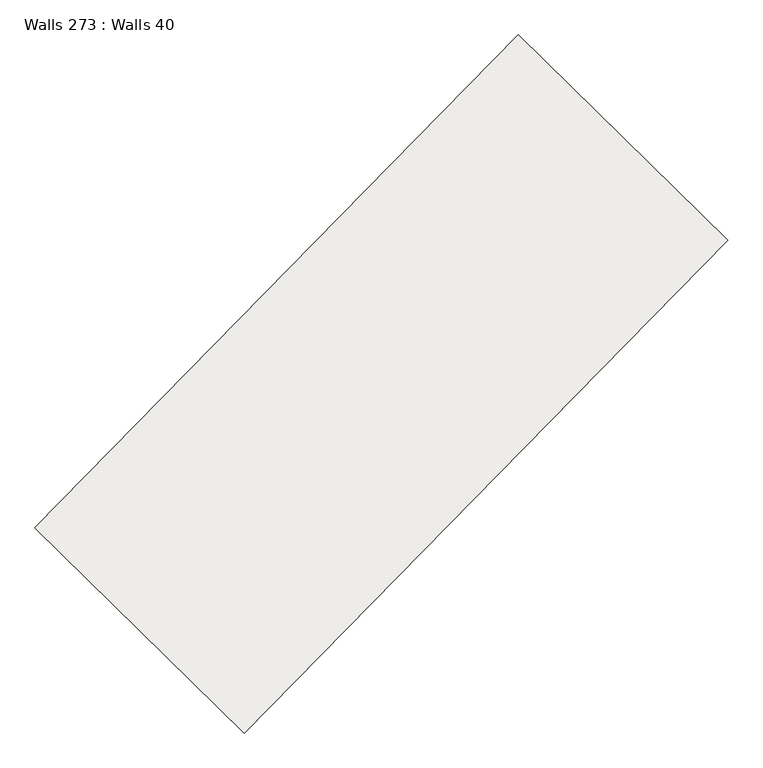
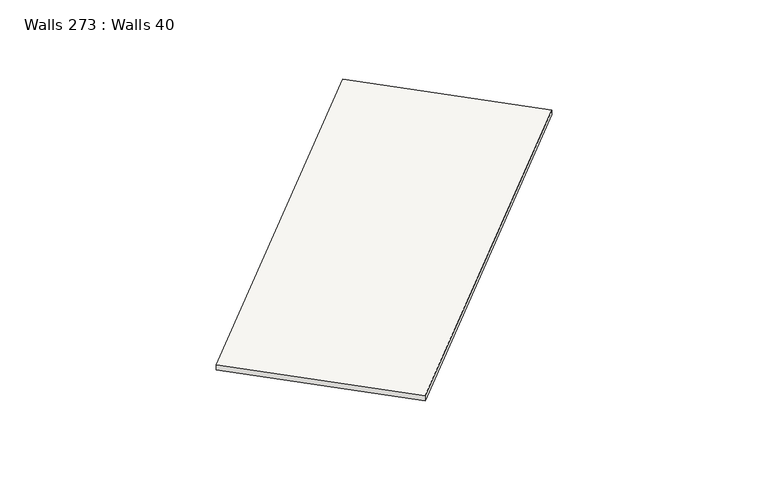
"""IFC4 building model written with IfcOpenShell, lengths in millimetres: slab geometry, Walls 273 : Walls 40."""

from ifc_helpers import new_model, si_unit, origin, place, context, project, spatial, faceted_brep, source, transform, mapped, element, save


def walls_273_walls_40_7f205eb4(model_context):
    return source(origin(), model_context, "Body", "Brep", [
        faceted_brep([(-148837.5303658, -305730.7912121, 635870.0), (-146196.7065576, -308322.325425, 635870.0), (-146196.7065576, -308322.325425, 635970.0), (-148837.5303658, -305730.7912121, 635970.0), (-142743.98898, -299521.2217117, 635960.0), (-142743.98898, -299521.2217117, 636060.0), (-140103.1651718, -302112.7559246, 636060.0), (-140103.1651718, -302112.7559246, 635960.0)], [[[0, 1, 2, 3]], [[4, 5, 6, 7]], [[6, 5, 3, 2]], [[4, 7, 1, 0]], [[7, 6, 2, 1]], [[5, 4, 0, 3]]]),
    ])


if __name__ == "__main__":
    model = new_model("IFC4")
    model_context = context("Model", 3, world=origin())
    ifc_project = project(units=[si_unit("LENGTHUNIT", "METRE", prefix="MILLI")], contexts=[model_context])
    site = spatial("IfcSite", under=ifc_project)
    building = spatial("IfcBuilding", under=site)
    placement = place(None, origin())
    walls_273_walls_40_shape = walls_273_walls_40_7f205eb4(model_context)
    element("IfcSlab", 1, ObjectType="Walls 273 : Walls 40", at=placement, inside=building, context=model_context, shape_type="MappedRepresentation", body=[
        mapped(walls_273_walls_40_shape, transform((0.0, 0.0, 0.0), x_axis=(1.0, 0.0, 0.0), y_axis=(0.0, 1.0, 0.0), z_axis=(0.0, 0.0, 1.0))),
    ])
    save(model, "model.ifc")
